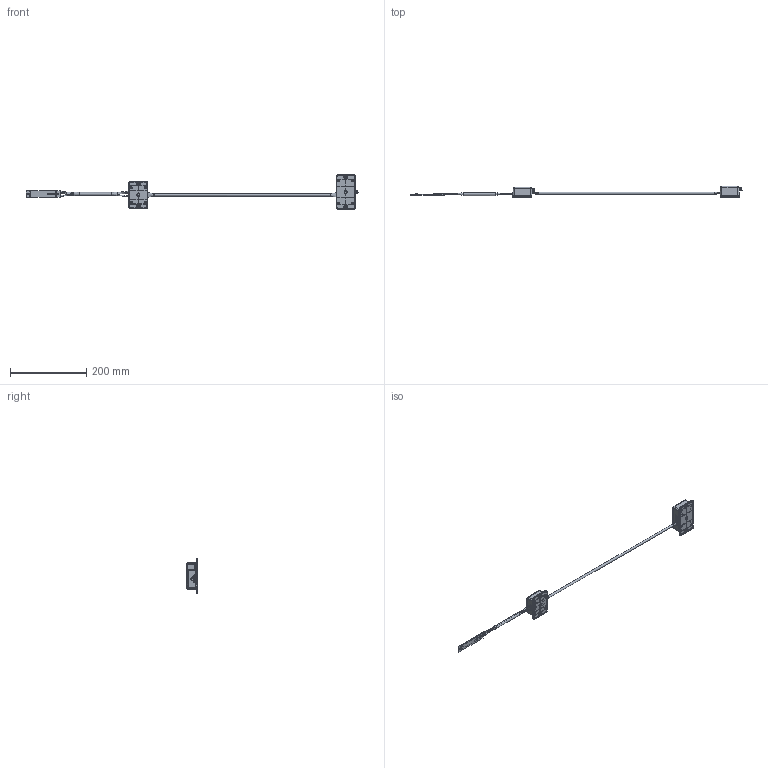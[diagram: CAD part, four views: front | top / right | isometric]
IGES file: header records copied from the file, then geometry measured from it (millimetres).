
Global section: file name: 0分離; native system: unknown; preprocessor: unknown; author: unknown; organization: unknown; date: 20210301.143419; units: millimetre
Bounding box: 873.03 x 29.9 x 90.4 mm (x, y, z)
Volume: 86281.5 mm3; surface area: 97226.3 mm2
Topology: 103 solids, 103 shells, 2991 faces, 7711 edges, 5048 vertices
Faces by surface type: bspline 2991
